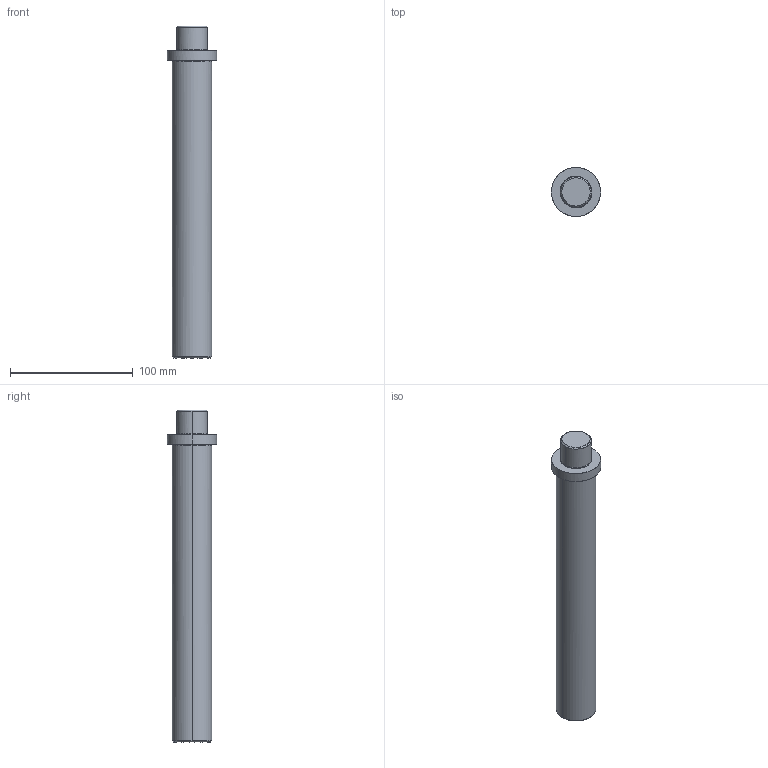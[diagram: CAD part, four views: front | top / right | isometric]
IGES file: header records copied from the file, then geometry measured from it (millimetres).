
Global section: file name: E:\UnigraphicsGraphicData\MISUMI_PRESS-PARTS\IGES\3d_lcp32-250-20_06988_r00.igs; native system: NX V5.0; preprocessor: UGS NX IGES V5.0; author: MISUMI; date: 20110105.161155; units: millimetre
Bounding box: 40 x 40 x 270 mm (x, y, z)
Surface area: 29273.9 mm2 (no closed solid volume)
Topology: 0 solids, 0 shells, 18 faces, 144 edges, 144 vertices
Faces by surface type: bspline 18
